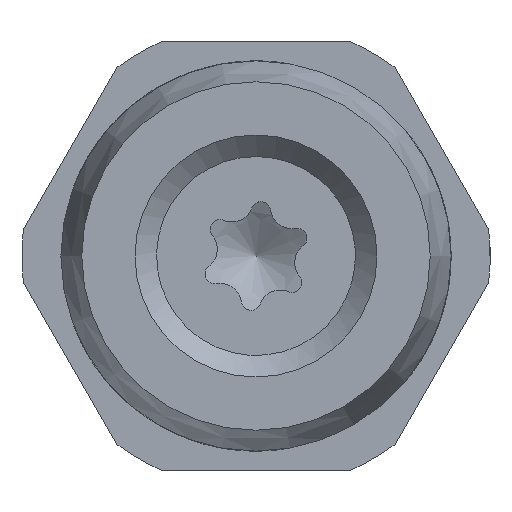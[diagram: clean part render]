
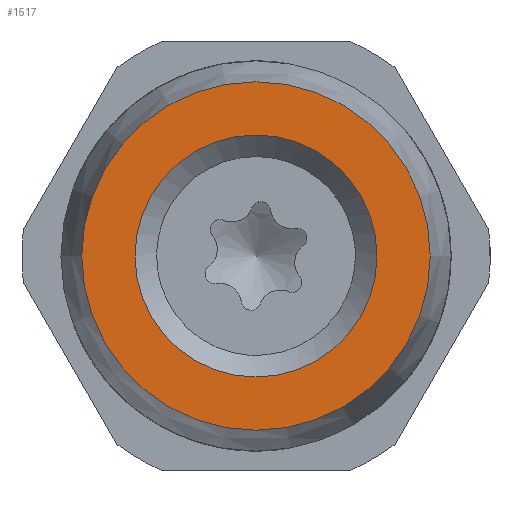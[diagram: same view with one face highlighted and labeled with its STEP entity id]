
A CAD part, front view. The second image highlights one B-rep face of the part: STEP entity #1517.
In plain terms, the highlighted planar face has unit normal (0, -1, 0).
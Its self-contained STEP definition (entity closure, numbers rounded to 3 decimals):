
#299=FACE_BOUND('',#438,.T.);
#346=FACE_OUTER_BOUND('',#437,.T.);
#437=EDGE_LOOP('',(#1214,#1215));
#438=EDGE_LOOP('',(#1216,#1217));
#545=CIRCLE('',#1690,4.464);
#546=CIRCLE('',#1691,4.464);
#547=CIRCLE('',#1693,3.1);
#548=CIRCLE('',#1694,3.1);
#675=VERTEX_POINT('',#2772);
#676=VERTEX_POINT('',#2774);
#677=VERTEX_POINT('',#2778);
#678=VERTEX_POINT('',#2779);
#867=EDGE_CURVE('',#675,#676,#545,.T.);
#868=EDGE_CURVE('',#676,#675,#546,.T.);
#869=EDGE_CURVE('',#677,#678,#547,.T.);
#870=EDGE_CURVE('',#678,#677,#548,.T.);
#1214=ORIENTED_EDGE('',*,*,#868,.F.);
#1215=ORIENTED_EDGE('',*,*,#867,.F.);
#1216=ORIENTED_EDGE('',*,*,#869,.T.);
#1217=ORIENTED_EDGE('',*,*,#870,.T.);
#1403=PLANE('',#1692);
#1517=ADVANCED_FACE('',(#346,#299),#1403,.T.);
#1690=AXIS2_PLACEMENT_3D('',#2775,#2034,#2035);
#1691=AXIS2_PLACEMENT_3D('',#2776,#2036,#2037);
#1692=AXIS2_PLACEMENT_3D('',#2777,#2038,#2039);
#1693=AXIS2_PLACEMENT_3D('',#2780,#2040,#2041);
#1694=AXIS2_PLACEMENT_3D('',#2781,#2042,#2043);
#2034=DIRECTION('center_axis',(0.,1.,0.));
#2035=DIRECTION('ref_axis',(0.5,0.,0.866));
#2036=DIRECTION('center_axis',(0.,1.,0.));
#2037=DIRECTION('ref_axis',(0.5,0.,0.866));
#2038=DIRECTION('center_axis',(0.,-1.,0.));
#2039=DIRECTION('ref_axis',(-0.866,0.,0.5));
#2040=DIRECTION('center_axis',(0.,1.,0.));
#2041=DIRECTION('ref_axis',(-0.5,0.,-0.866));
#2042=DIRECTION('center_axis',(0.,1.,0.));
#2043=DIRECTION('ref_axis',(-0.5,0.,-0.866));
#2772=CARTESIAN_POINT('',(-2.232,-2.15,-3.866));
#2774=CARTESIAN_POINT('',(2.232,-2.15,3.866));
#2775=CARTESIAN_POINT('Origin',(0.,-2.15,
0.));
#2776=CARTESIAN_POINT('Origin',(0.,-2.15,
0.));
#2777=CARTESIAN_POINT('Origin',(1.116,-2.15,1.933));
#2778=CARTESIAN_POINT('',(-1.55,-2.15,-2.685));
#2779=CARTESIAN_POINT('',(1.55,-2.15,2.685));
#2780=CARTESIAN_POINT('Origin',(0.,-2.15,
0.));
#2781=CARTESIAN_POINT('Origin',(0.,-2.15,
0.));
